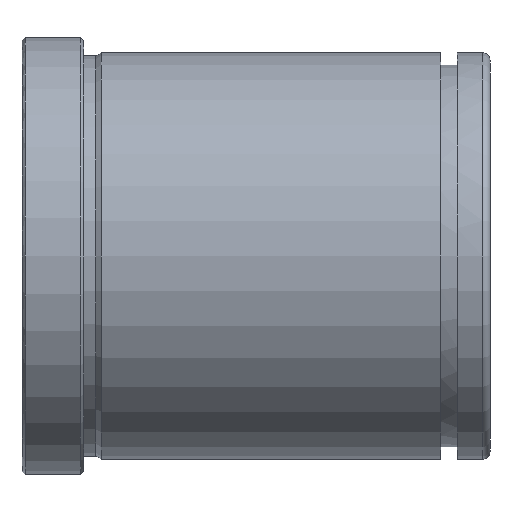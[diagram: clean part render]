
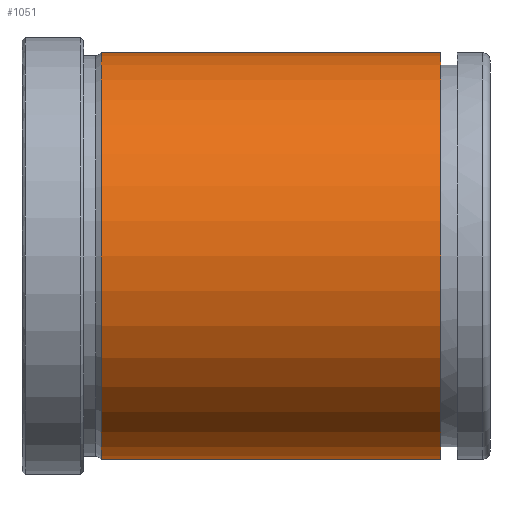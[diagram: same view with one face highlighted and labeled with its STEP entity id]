
A CAD part, front view. The second image highlights one B-rep face of the part: STEP entity #1051.
In plain terms, the highlighted cylindrical face has radius 33 mm (diameter 66 mm), a partial arc.
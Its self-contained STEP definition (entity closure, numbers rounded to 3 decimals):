
#851=CARTESIAN_POINT('Vertex',(12.866,0.,-33.)) ;
#858=CARTESIAN_POINT('Vertex',(12.866,0.,33.)) ;
#887=CARTESIAN_POINT('Axis2P3D Location',(12.866,0.,0.)) ;
#891=CARTESIAN_POINT('Vertex',(12.866,-33.,0.)) ;
#894=CARTESIAN_POINT('Axis2P3D Location',(12.866,0.,0.)) ;
#991=CARTESIAN_POINT('Line Origine',(152.,0.,33.)) ;
#995=CARTESIAN_POINT('Vertex',(68.,0.,33.)) ;
#1009=CARTESIAN_POINT('Vertex',(68.,0.,-33.)) ;
#1012=CARTESIAN_POINT('Line Origine',(152.,0.,-33.)) ;
#1026=CARTESIAN_POINT('Axis2P3D Location',(152.,0.,0.)) ;
#1031=CARTESIAN_POINT('Axis2P3D Location',(68.,0.,0.)) ;
#1035=CARTESIAN_POINT('Vertex',(68.,-33.,0.)) ;
#1038=CARTESIAN_POINT('Axis2P3D Location',(68.,0.,0.)) ;
#888=DIRECTION('Axis2P3D Direction',(1.,0.,-0.)) ;
#895=DIRECTION('Axis2P3D Direction',(1.,0.,-0.)) ;
#992=DIRECTION('Vector Direction',(-1.,0.,0.)) ;
#1013=DIRECTION('Vector Direction',(-1.,0.,0.)) ;
#1027=DIRECTION('Axis2P3D Direction',(-1.,-0.,-0.)) ;
#1028=DIRECTION('Axis2P3D XDirection',(0.,0.,-1.)) ;
#1032=DIRECTION('Axis2P3D Direction',(-1.,-0.,-0.)) ;
#1039=DIRECTION('Axis2P3D Direction',(-1.,-0.,-0.)) ;
#889=AXIS2_PLACEMENT_3D('Circle Axis2P3D',#887,#888,$) ;
#896=AXIS2_PLACEMENT_3D('Circle Axis2P3D',#894,#895,$) ;
#1029=AXIS2_PLACEMENT_3D('Cylinder Axis2P3D',#1026,#1027,#1028) ;
#1033=AXIS2_PLACEMENT_3D('Circle Axis2P3D',#1031,#1032,$) ;
#1040=AXIS2_PLACEMENT_3D('Circle Axis2P3D',#1038,#1039,$) ;
#1044=ORIENTED_EDGE('',*,*,#1016,.T.) ;
#1045=ORIENTED_EDGE('',*,*,#1037,.F.) ;
#1046=ORIENTED_EDGE('',*,*,#1042,.F.) ;
#1047=ORIENTED_EDGE('',*,*,#997,.T.) ;
#1048=ORIENTED_EDGE('',*,*,#898,.T.) ;
#1049=ORIENTED_EDGE('',*,*,#893,.T.) ;
#993=VECTOR('Line Direction',#992,1.) ;
#1014=VECTOR('Line Direction',#1013,1.) ;
#1051=ADVANCED_FACE('553-50X76',(#1050),#1030,.T.) ;
#890=CIRCLE('generated circle',#889,33.) ;
#897=CIRCLE('generated circle',#896,33.) ;
#1034=CIRCLE('generated circle',#1033,33.) ;
#1041=CIRCLE('generated circle',#1040,33.) ;
#1030=CYLINDRICAL_SURFACE('generated cylinder',#1029,33.) ;
#893=EDGE_CURVE('',#892,#852,#890,.T.) ;
#898=EDGE_CURVE('',#859,#892,#897,.T.) ;
#997=EDGE_CURVE('',#996,#859,#994,.T.) ;
#1016=EDGE_CURVE('',#852,#1010,#1015,.F.) ;
#1037=EDGE_CURVE('',#1036,#1010,#1034,.F.) ;
#1042=EDGE_CURVE('',#996,#1036,#1041,.F.) ;
#1043=EDGE_LOOP('',(#1044,#1045,#1046,#1047,#1048,#1049)) ;
#1050=FACE_OUTER_BOUND('',#1043,.T.) ;
#994=LINE('Line',#991,#993) ;
#1015=LINE('Line',#1012,#1014) ;
#852=VERTEX_POINT('',#851) ;
#859=VERTEX_POINT('',#858) ;
#892=VERTEX_POINT('',#891) ;
#996=VERTEX_POINT('',#995) ;
#1010=VERTEX_POINT('',#1009) ;
#1036=VERTEX_POINT('',#1035) ;
